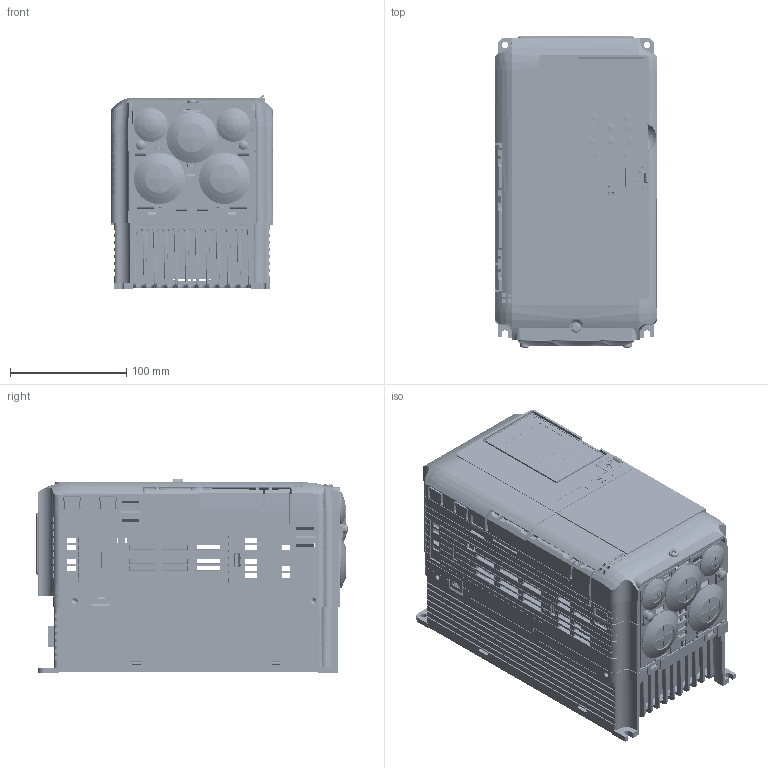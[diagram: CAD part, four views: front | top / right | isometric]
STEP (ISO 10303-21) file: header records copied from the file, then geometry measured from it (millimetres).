
FILE_DESCRIPTION((''),'2;1');
FILE_NAME('71616-AA4A0011FAA_ASM','2010-02-19T',('jc'),('YASKAWA ELECTRIC CORCORATION'),'PRO/ENGINEER BY PARAMETRIC TECHNOLOGY CORPORATION, 2008490','PRO/ENGINEER BY PARAMETRIC TECHNOLOGY CORPORATION, 2008490','');
FILE_SCHEMA(('CONFIG_CONTROL_DESIGN'));
Length unit declared in the file: millimetre
Products named in the file (71): LAY_AA4A0011FAA; HSGT21103_1_AF0; HSGT21103_ASM; CVST31365; ISCT21009; WSZT41066-1; YPHT31611-1C_AF0; TBET31051_1_1_AF1; TBET31051_1_2_AF21; TBET31051_1_2_AF20; TBET31051_1_2_AF19; TBET31051_1_2_AF18; TBET31051_1_2_AF17; TBET31051_1_2_AF16; TBET31051_1_2_AF15; TBET31051_1_2_AF14; TBET31051_1_2_AF13; TBET31051_1_2_AF12; TBET31051_1_2_AF11; TBET31051-A_1_AF1_ASM; TBET31051_2; ETP712140_I1_ASM; BRQT45503; CVST31356; CVST21160_1_AF0; CVST21160_3; CVST21160_2; CVST21160_ASM; CVST31363; YPHT31639-1B; XC6202P502P_AF0; SPTA1_12-5P0_AF0; SPTA1_11-5P0_AF0; RF-H062TD-1113_AF0; RF-H062TD-1113_AF1; 20-8335-052-101-856_AF0; CHS-01B1_AF0; CHS-01B1_AF1; CHS-01B1_AF2; SPTA1_11-5P0_AF1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
Assembly tree (94 placements, depth 5):
  71616-AA4A0011FAA_ASM
    LAY_AA4A0011FAA
    HSGT21103_ASM
      HSGT21103_1_AF0
    CVST31365
    ISCT21009
    WSZT41066-1
    ETP712140_I1_ASM
      YPHT31611-1C_AF0
      TBET31051-A_1_AF1_ASM
        TBET31051_1_1_AF1
        TBET31051_1_2_AF21
        TBET31051_1_2_AF20
        TBET31051_1_2_AF19
        TBET31051_1_2_AF18
        TBET31051_1_2_AF17
        TBET31051_1_2_AF16
        TBET31051_1_2_AF15
        TBET31051_1_2_AF14
        TBET31051_1_2_AF13
        TBET31051_1_2_AF12
        TBET31051_1_2_AF11
      TBET31051_2  x9
    BRQT45503
    TBET31051_2  x2
    CVST31356
    CVST21160_ASM
      CVST21160_1_AF0
      CVST21160_3  x10
      CVST21160_2
    CVST31363
    ETC740140_ASM
      YPHT31639-1B
      XC6202P502P_AF0
      SPTA1_12-5P0_AF0
      SPTA1_11-5P0_AF0
      RF-H062TD-1113_AF0
      RF-H062TD-1113_AF1
      20-8335-052-101-856_AF0
      CHS-01B1_AF0
      CHS-01B1_AF1
      CHS-01B1_AF2
      SPTA1_11-5P0_AF1
      SPTA1_3-5P0_AF0
      SPTA1_3-5P0_AF1
      SPTA1_3-5P0_AF2
      TBET31116_I1_AF0_ASM
        TBET31116_1_I1_AF0_ASM
          TBET31116_1_1
          TBET31116_1_2
          TBET31116_1_3_I1
        TBET31116_2
    FPST31750
    CVST31367
    SPAT35313
    WSZT41061-1  x2
    WSZT41077-1  x3
    SPAT35362-A_ASM
      SPAT35362-A_1
      SPAT35362-A_2
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Bounding box: 140 x 268.4 x 166.89 mm (x, y, z)
Volume: 2509151.4 mm3; surface area: 794625.1 mm2
Topology: 205 solids, 219 shells, 16258 faces, 44112 edges, 28561 vertices
Faces by surface type: plane 12957, cylinder 1864, cone 714, torus 259, bspline 235, sphere 229
Entity records: 489076 total; most frequent: CARTESIAN_POINT 101849, ORIENTED_EDGE 82698, DIRECTION 75345, EDGE_CURVE 41349, VECTOR 35101, LINE 35101, VERTEX_POINT 26873, AXIS2_PLACEMENT_3D 20122
